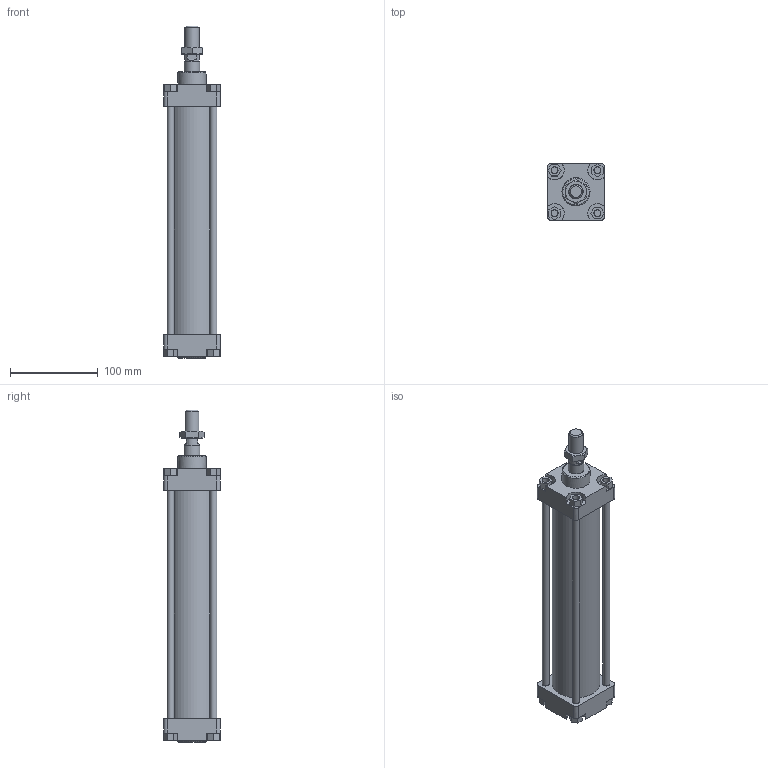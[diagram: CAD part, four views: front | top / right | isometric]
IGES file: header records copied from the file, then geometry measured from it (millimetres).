
Global section: file name: 130#_050_0200_01A; native system: Autodesk Inventor 2014; preprocessor: unknown; author: A. Manieri; date: 20161123.145508; units: millimetre
Bounding box: 65 x 65 x 379 mm (x, y, z)
Volume: 512989.2 mm3; surface area: 186407.1 mm2
Topology: 9 solids, 9 shells, 163 faces, 401 edges, 268 vertices
Faces by surface type: bspline 163
